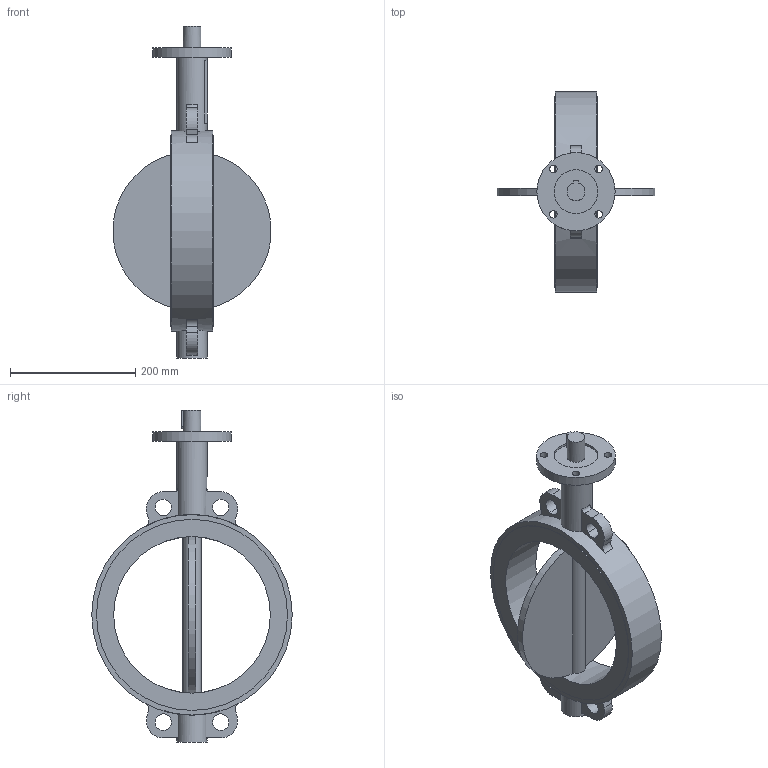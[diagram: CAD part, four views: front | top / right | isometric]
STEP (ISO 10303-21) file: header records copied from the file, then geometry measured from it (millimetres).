
FILE_DESCRIPTION(('STEP AP203'), '1');
FILE_NAME('青蜮铕 017WDN250 疱潴牝铕', '', ('UNSPECIFIED'), ('UNSPECIFIED'), 'ASCON STEP Converter 1.6', 'ASCON Math Kernel', '');
FILE_SCHEMA(('CONFIG_CONTROL_DESIGN'));
Length unit declared in the file: millimetre
Bounding box: 252.13 x 320 x 530 mm (x, y, z)
Surface area: 371505.2 mm2 (no closed solid volume)
Topology: 0 solids, 1 shells, 668 faces, 1981 edges, 1276 vertices
Faces by surface type: cylinder 488, plane 176, torus 4
Full cylindrical faces by diameter (mm): 12 x4, 28.6 x1, 48 x2, 70 x1, 125 x1, 250 x1, 305 x2, 320 x1
Entity records: 31734 total; most frequent: CARTESIAN_POINT 6381, DIRECTION 4487, ORIENTED_EDGE 4027, EDGE_CURVE 2045, AXIS2_PLACEMENT_3D 1765, VERTEX_POINT 1333, CIRCLE 1056, LINE 957
